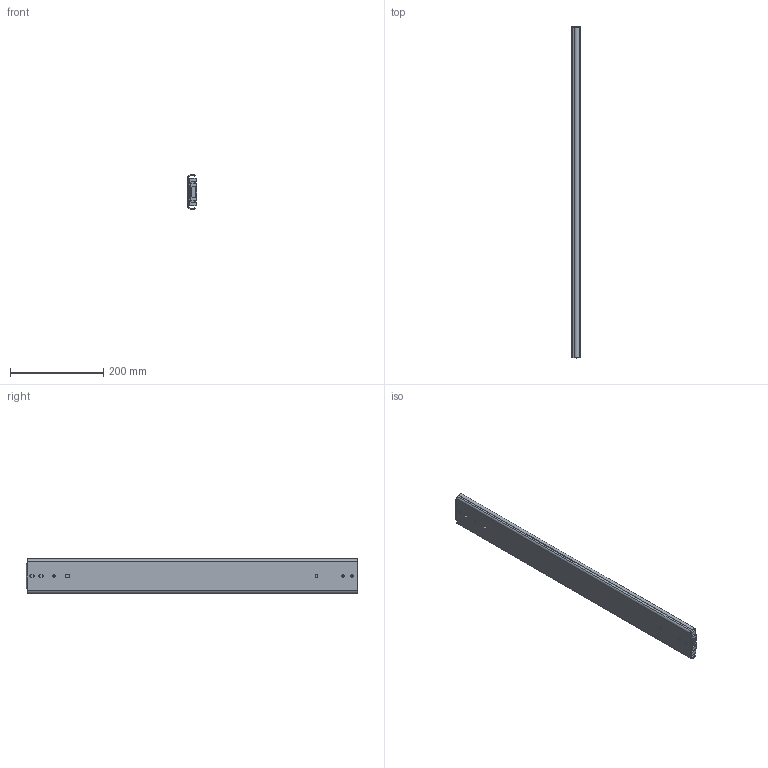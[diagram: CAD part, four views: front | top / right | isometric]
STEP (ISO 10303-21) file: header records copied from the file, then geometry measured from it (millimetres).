
FILE_DESCRIPTION(/* description */ ('Unknown'),/* implementation_level */ '2;1');
FILE_NAME(/* name */ '76J01-28 close',/* time_stamp */ '2024-07-26T15:56:15+08:00',/* author */ ('Unknown'),/* organization */ ('Unknown'),/* preprocessor_version */ 'ST-DEVELOPER v18.104',/* originating_system */ 'Solid Edge',/* authorisation */ 'Unknown');
FILE_SCHEMA (('AUTOMOTIVE_DESIGN {1 0 10303 214 3 1 1}'));
Length unit declared in the file: millimetre
Products named in the file (4): 76J01-28 close; 76J01 28 inch 內; 76J01 28 吋
Assembly tree (3 placements, depth 2):
  76J01-28 close
    76J01 28 inch 內
    76J01 28 吋
    76J01 28 吋
Bounding box: 19.3 x 711.2 x 76.76 mm (x, y, z)
Volume: 556769.9 mm3; surface area: 347076.6 mm2
Topology: 3 solids, 3 shells, 188 faces, 575 edges, 387 vertices
Faces by surface type: plane 104, cylinder 84
Full cylindrical faces by diameter (mm): 5.2 x9, 7.1 x2
Entity records: 6871 total; most frequent: CARTESIAN_POINT 1124, ORIENTED_EDGE 1106, DIRECTION 1105, EDGE_CURVE 553, LINE 383, VECTOR 383, VERTEX_POINT 376, AXIS2_PLACEMENT_3D 361
